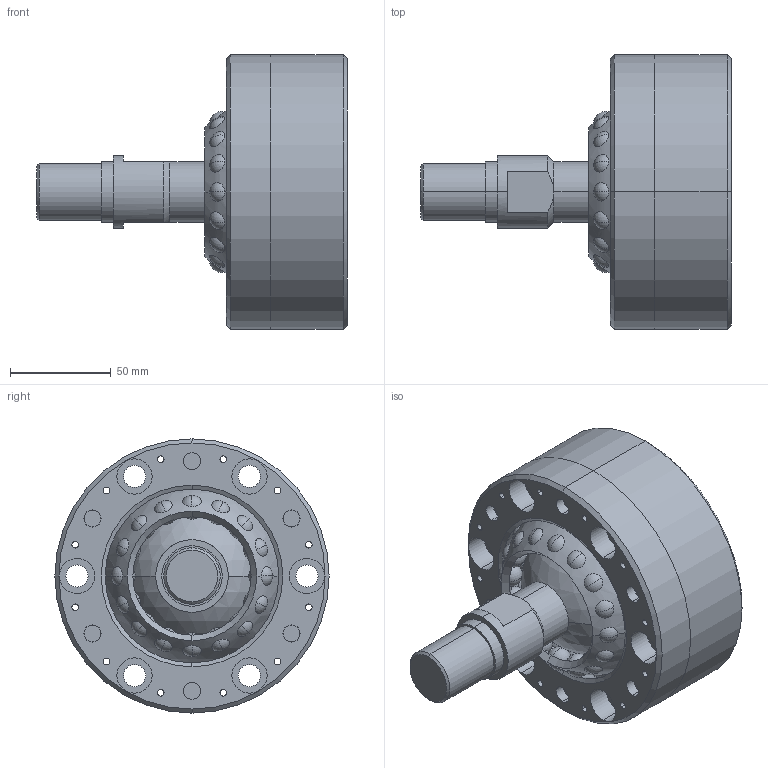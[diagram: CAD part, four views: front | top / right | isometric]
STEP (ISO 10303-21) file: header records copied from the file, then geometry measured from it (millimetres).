
FILE_DESCRIPTION (( 'STEP AP203' ), '1' );
FILE_NAME ('SR JOINT - SRJ048C.STEP', '2010-06-01T19:52:18', ( 'render' ), ( '' ), 'SwSTEP 2.0', 'SolidWorks 2009', '' );
FILE_SCHEMA (( 'CONFIG_CONTROL_DESIGN' ));
Length unit declared in the file: millimetre
Products named in the file (1): SR JOINT - SRJ048C
Bounding box: 154 x 136 x 136 mm (x, y, z)
Surface area: 149593.2 mm2 (no closed solid volume)
Topology: 0 solids, 16 shells, 432 faces, 1205 edges, 822 vertices
Faces by surface type: sphere 210, cylinder 96, plane 88, cone 26, torus 12
Entity records: 14341 total; most frequent: DIRECTION 2924, CARTESIAN_POINT 2456, ORIENTED_EDGE 2045, AXIS2_PLACEMENT_3D 1327, EDGE_CURVE 1168, CIRCLE 894, VERTEX_POINT 815, EDGE_LOOP 604
